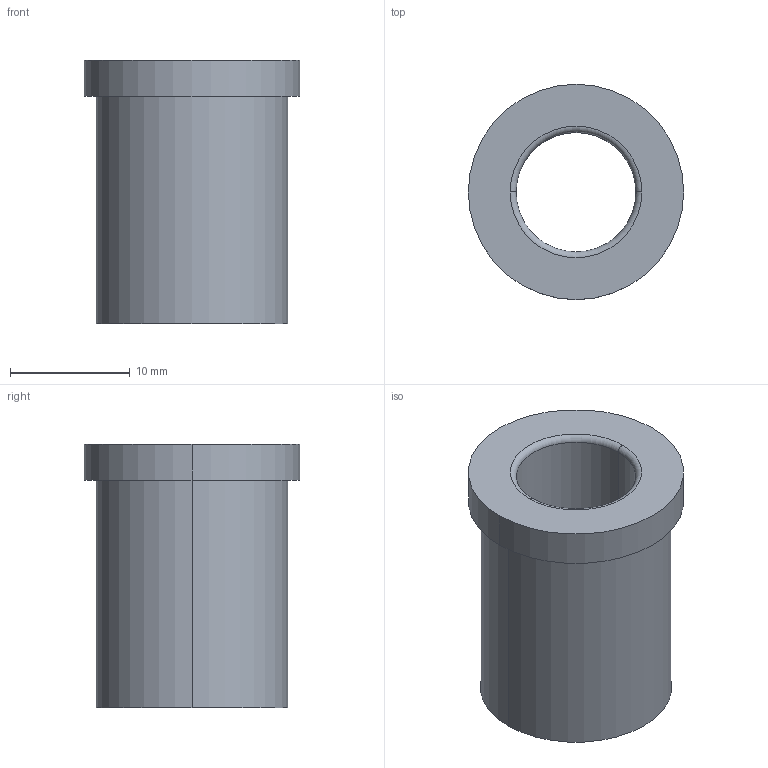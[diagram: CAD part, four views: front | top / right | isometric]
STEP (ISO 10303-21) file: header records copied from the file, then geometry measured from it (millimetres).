
FILE_DESCRIPTION(/* description */ (''),/* implementation_level */ '2;1');
FILE_NAME(/* name */ '3d_sghz10-22_00308_r00.stp',/* time_stamp */ '2011-01-10T14:11:11+09:00',/* author */ ('MISUMI'),/* organization */ (''),/* preprocessor_version */ 'ST-DEVELOPER v11',/* originating_system */ 'UGS - NX 5.0',/* authorisation */ '');
FILE_SCHEMA (('CONFIG_CONTROL_DESIGN'));
Length unit declared in the file: millimetre
Products named in the file (1): 3d_sghz10-22_00308_r00
Bounding box: 18 x 18 x 22 mm (x, y, z)
Volume: 2852.3 mm3; surface area: 2154.4 mm2
Topology: 1 solids, 1 shells, 13 faces, 26 edges, 16 vertices
Faces by surface type: cylinder 6, torus 4, plane 3
Entity records: 438 total; most frequent: DIRECTION 74, CARTESIAN_POINT 56, ORIENTED_EDGE 52, AXIS2_PLACEMENT_3D 34, EDGE_CURVE 26, CIRCLE 20, EDGE_LOOP 16, VERTEX_POINT 16
